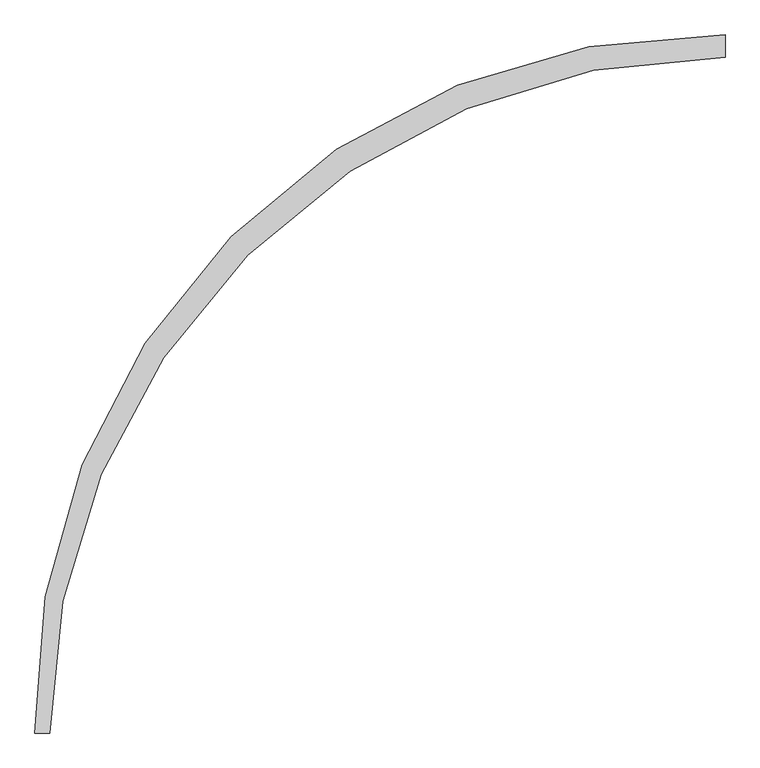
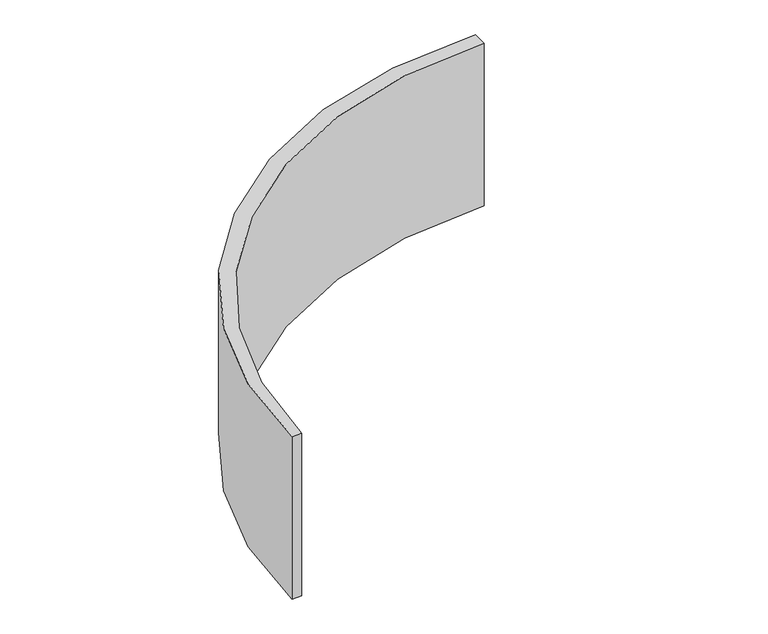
"""IFC4 building model written with IfcOpenShell, lengths in millimetres: plate geometry, 結構襯料 19 : 結構襯料 19."""

from ifc_helpers import new_model, si_unit, point, frame, frame_2d, origin, place, context, project, spatial, polyline, circle_curve, trimmed, segment, composite_curve, outline, extrude, source, transform, mapped, element, save


def plate_b79b3528(model_context):
    return source(origin(), model_context, "Body", "SweptSolid", [
        extrude(outline(composite_curve([segment(polyline([(-17392.9248768, -1055.5142712), (-17392.9248768, -1105.1928355)]), True, "CONTINUOUS"), segment(trimmed(circle_curve(frame_2d((-17392.9248768, -2595.1928355)), 1490.0), [point((-17392.9248768, -1105.1928355))], [point((-18882.9248768, -2595.1928355))], True, "CARTESIAN"), True, "CONTINUOUS"), segment(polyline([(-18882.9248768, -2595.1928355), (-18916.0408176, -2595.1928355)]), True, "CONTINUOUS"), segment(trimmed(circle_curve(frame_2d((-17416.5706493, -2555.3278855)), 1500.0), [point((-18916.0408176, -2595.1928355))], [point((-17392.9248768, -1055.5142712))], False, "CARTESIAN"), True, "CONTINUOUS")], self_intersect=False)), frame((0.0, 0.0, -451.6), z_axis=(0.0, 0.0, 1.0), x_axis=(1.0, 0.0, 0.0)), (0.0, 0.0, 1.0), 593.6),
    ])


if __name__ == "__main__":
    model = new_model("IFC4")
    model_context = context("Model", 3, world=origin())
    ifc_project = project(units=[si_unit("LENGTHUNIT", "METRE", prefix="MILLI")], contexts=[model_context])
    site = spatial("IfcSite", under=ifc_project)
    building = spatial("IfcBuilding", under=site)
    placement = place(None, origin())
    plate_shape = plate_b79b3528(model_context)
    element("IfcPlate", 1, ObjectType="結構襯料 19 : 結構襯料 19", at=placement, inside=building, context=model_context, shape_type="MappedRepresentation", body=[
        mapped(plate_shape, transform((0.0, 0.0, 0.0), x_axis=(1.0, 0.0, 0.0), y_axis=(0.0, 1.0, 0.0), z_axis=(0.0, 0.0, 1.0))),
    ])
    save(model, "model.ifc")
